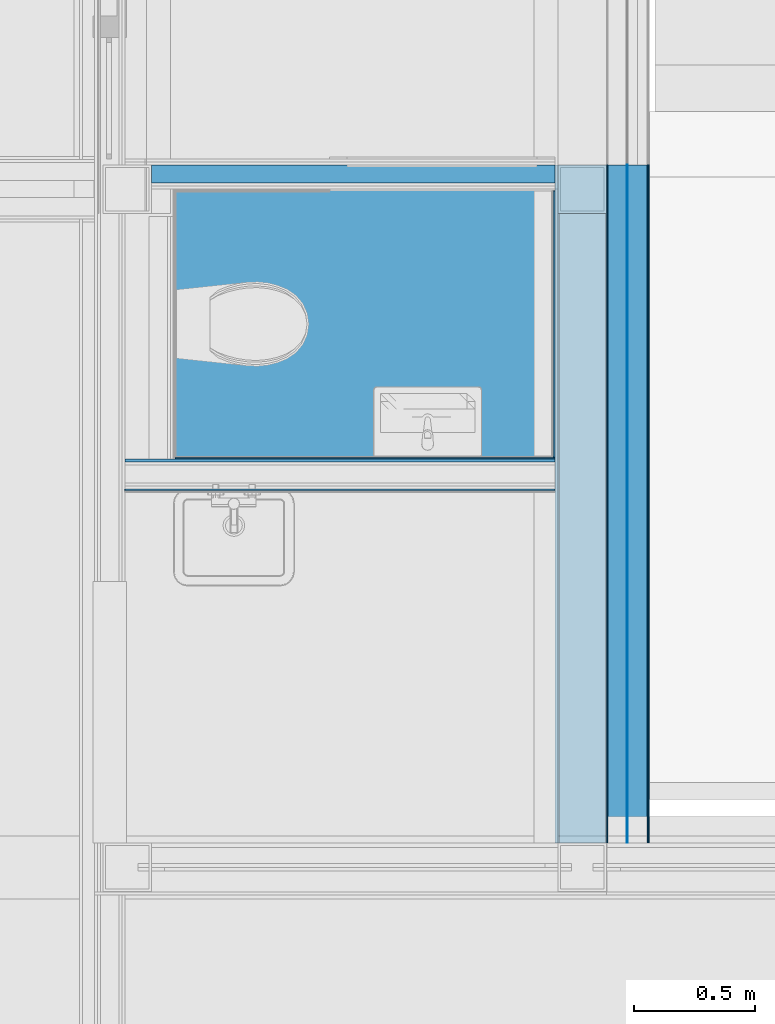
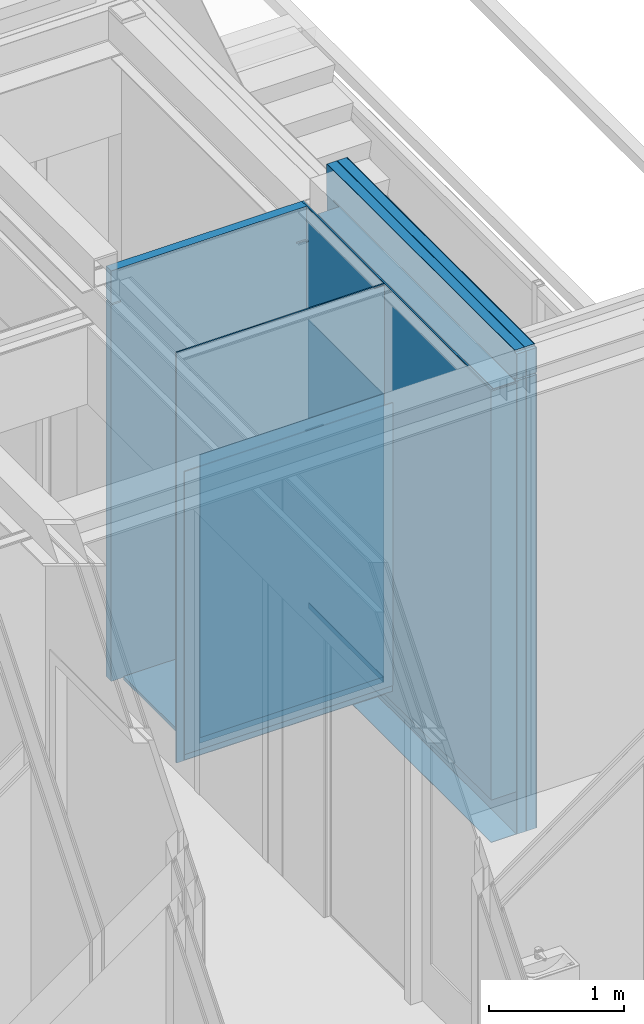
# One storey, part 92 of 165: 16 building element parts, 1 opening, 7 elements without a shape of their own.
"""IFC2X3 building model written with IfcOpenShell, lengths in millimetres."""

import ifcopenshell
import ifcopenshell.guid

model = None  # the IFC model being written
_history = None  # IfcOwnerHistory: only IFC2X3 demands one
_inside = {}  # id of a spatial element -> (the spatial element, [elements in it])
_under = {}  # id of a project, library or spatial element -> (it, [spatial elements below it])
_declared = {}  # id of a project -> (the project, [libraries it declares])
_typed = {}  # id of a type object -> (the type object, [elements of that type])
_made_of = {}  # id of a material, layer set ... -> (it, [elements and type objects made of it])


def new_model(schema):
    """Start an empty IFC model of exactly this schema.

    Asked for "IFC4X3", IfcOpenShell would pick the latest addendum, in which some entities
    have other attributes; the version numbers below select the first issue.
    IFC2X3 requires an IfcOwnerHistory on every rooted entity: one is made here for all.
    """
    global model, _history
    if schema == "IFC4X3":
        model = ifcopenshell.file(schema_version=(4, 3, 0, 0))
    else:
        model = ifcopenshell.file(schema=schema)
    _inside.clear()
    _under.clear()
    _declared.clear()
    _typed.clear()
    _made_of.clear()
    _history = None
    if model.schema == "IFC2X3":
        org = make("IfcOrganization", Name="unknown")
        user = make(
            "IfcPersonAndOrganization",
            ThePerson=make("IfcPerson", FamilyName="unknown"),
            TheOrganization=org,
        )
        app = make(
            "IfcApplication",
            ApplicationDeveloper=org,
            Version="unknown",
            ApplicationFullName="unknown",
            ApplicationIdentifier="unknown",
        )
        _history = make(
            "IfcOwnerHistory",
            OwningUser=user,
            OwningApplication=app,
            ChangeAction="ADDED",
            CreationDate=0,
        )
    return model


def make(cls, **values):
    """One entity of the class cls with the attributes given. An attribute that is None is left unset."""
    return model.create_entity(
        cls, **{name: value for name, value in values.items() if value is not None}
    )


def entity(cls, *values):
    """Any entity or typed value of the class cls, its attributes in the order of the schema. None: left unset."""
    e = model.create_entity(cls)
    for i, value in enumerate(values):
        if value is not None:
            e[i] = value
    return e


def rooted(cls, **values):
    """An entity with a GlobalId (a new one), such as an element, a storey or a relation."""
    return make(cls, GlobalId=ifcopenshell.guid.new(), OwnerHistory=_history, **values)


def si_unit(unit_type, name, prefix=None):
    """IfcSIUnit, for example si_unit("LENGTHUNIT", "METRE", prefix="MILLI")."""
    return make("IfcSIUnit", UnitType=unit_type, Prefix=prefix, Name=name)


def converted_unit(unit_type, name, factor, base, dimensions=None, offset=None):
    """IfcConversionBasedUnit, such as the inch: factor (a typed value) times the base unit."""
    return make(
        "IfcConversionBasedUnit"
        if offset is None
        else "IfcConversionBasedUnitWithOffset",
        ConversionOffset=offset,
        Dimensions=None
        if dimensions is None
        else entity("IfcDimensionalExponents", *dimensions),
        UnitType=unit_type,
        Name=name,
        ConversionFactor=make(
            "IfcMeasureWithUnit", ValueComponent=factor, UnitComponent=base
        ),
    )


def derived_unit(unit_type, elements):
    """IfcDerivedUnit: a product of units, each with its exponent."""
    return make(
        "IfcDerivedUnit",
        Elements=[
            make("IfcDerivedUnitElement", Unit=unit, Exponent=power)
            for unit, power in elements
        ],
        UnitType=unit_type,
    )


def money_unit(currency):
    """IfcMonetaryUnit."""
    return make("IfcMonetaryUnit", Currency=currency)


def assignment(units):
    """IfcUnitAssignment: the units of a project."""
    return None if units is None else make("IfcUnitAssignment", Units=units)


def point(xyz):
    """IfcCartesianPoint."""
    return None if xyz is None else make("IfcCartesianPoint", Coordinates=xyz)


def direction(xyz):
    """IfcDirection."""
    return None if xyz is None else make("IfcDirection", DirectionRatios=xyz)


def frame(location, z_axis=None, x_axis=None):
    """IfcAxis2Placement3D, a coordinate frame: its origin and axes. An axis left out is left unset."""
    return make(
        "IfcAxis2Placement3D",
        Location=point(location),
        Axis=direction(z_axis),
        RefDirection=direction(x_axis),
    )


def origin_with_axes():
    """The frame at (0, 0, 0) with the z axis (0, 0, 1) and the x axis (1, 0, 0) written out."""
    return frame((0.0, 0.0, 0.0), z_axis=(0.0, 0.0, 1.0), x_axis=(1.0, 0.0, 0.0))


def place(relative_to, where):
    """IfcLocalPlacement: puts the frame where relative to a parent placement (None: the world)."""
    return make(
        "IfcLocalPlacement", PlacementRelTo=relative_to, RelativePlacement=where
    )


def context(
    kind, dimensions, precision=None, world=None, true_north=None, identifier=None
):
    """IfcGeometricRepresentationContext, for example the 3D "Model" context."""
    return make(
        "IfcGeometricRepresentationContext",
        ContextIdentifier=identifier,
        ContextType=kind,
        CoordinateSpaceDimension=dimensions,
        Precision=precision,
        WorldCoordinateSystem=world,
        TrueNorth=true_north,
    )


def subcontext(parent, identifier, kind, view, scale=None):
    """IfcGeometricRepresentationSubContext, for example "Body" below "Model"."""
    return make(
        "IfcGeometricRepresentationSubContext",
        ContextIdentifier=identifier,
        ContextType=kind,
        ParentContext=parent,
        TargetScale=scale,
        TargetView=view,
    )


def project(units=None, contexts=None):
    """IfcProject with its units and contexts."""
    return rooted(
        "IfcProject",
        Name="project",
        RepresentationContexts=contexts,
        UnitsInContext=assignment(units),
    )


def spatial(cls, under=None, at=None, **own):
    """A site, building, storey or space (cls), placed at a placement, below another one or the project."""
    s = rooted(cls, ObjectPlacement=at, **own)
    if under is not None:
        _under.setdefault(under.id(), (under, []))[1].append(s)
    return s


def faces_of(points, faces, orient=None, outer=None):
    """IfcFace entities. A face is a list of loops; a loop is a list of indices into points, from 0.

    orient and outer hold one flag for each loop. By default every Orientation is true, the
    first loop of a face is its IfcFaceOuterBound and the others are IfcFaceBound.
    """
    made = []
    for i, loops in enumerate(faces):
        bounds = []
        for j, loop in enumerate(loops):
            is_outer = j == 0 if outer is None else outer[i][j]
            bounds.append(
                make(
                    "IfcFaceOuterBound" if is_outer else "IfcFaceBound",
                    Bound=make("IfcPolyLoop", Polygon=[points[k] for k in loop]),
                    Orientation=True if orient is None else orient[i][j],
                )
            )
        made.append(make("IfcFace", Bounds=bounds))
    return made


def faceted_brep(points, faces, orient=None, outer=None, voids=None):
    """IfcFacetedBrep: a solid bounded by flat faces; with voids (closed shells), ...WithVoids."""
    shared = [point(p) for p in points]
    hull = make("IfcClosedShell", CfsFaces=faces_of(shared, faces, orient, outer))
    if voids is None:
        return make("IfcFacetedBrep", Outer=hull)
    return make(
        "IfcFacetedBrepWithVoids",
        Outer=hull,
        Voids=[
            make(cls, CfsFaces=faces_of(shared, fs, o, b)) for cls, fs, o, b in voids
        ],
    )


def shape(context_of_items, identifier, shape_type, items):
    """IfcShapeRepresentation: the items that make up one representation, for example the "Body"."""
    return make(
        "IfcShapeRepresentation",
        ContextOfItems=context_of_items,
        RepresentationIdentifier=identifier,
        RepresentationType=shape_type,
        Items=items,
    )


def material(Name=None, Category=None):
    """IfcMaterial."""
    return make("IfcMaterial", Name=Name, Category=Category)


def made_of(thing, what):
    """Note that an element or type object is made of a material, layer set ...; save() writes the relation."""
    if what is not None:
        _made_of.setdefault(what.id(), (what, []))[1].append(thing)
    return thing


def type_object(cls, material=None, **own):
    """A type object (cls), such as IfcWallType, which elements share."""
    return made_of(rooted(cls, **own), material)


def element(
    cls,
    number,
    at=None,
    inside=None,
    cuts=None,
    type_object=None,
    material=None,
    context=None,
    identifier="Body",
    shape_type=None,
    held_by="IfcProductDefinitionShape",
    body=None,
    shapes=None,
    **own,
):
    """One element of the class cls, such as IfcWall. Its Tag is "e" and its number.

    at: its placement. inside: the storey or other place that contains it. cuts: it is an
    opening in that element (IfcRelVoidsElement). A single representation is given by context,
    identifier, shape_type and body (its items); several are given by shapes. held_by: the class
    of the entity that holds the representations. save() writes the other relations.
    """
    e = rooted(cls, Tag="e%d" % number, ObjectPlacement=at, **own)
    if body is not None:
        shapes = [shape(context, identifier, shape_type, body)]
    if shapes is not None:
        e.Representation = make(held_by, Representations=shapes)
    if inside is not None:
        _inside.setdefault(inside.id(), (inside, []))[1].append(e)
    if cuts is not None:
        rooted(
            "IfcRelVoidsElement", RelatingBuildingElement=cuts, RelatedOpeningElement=e
        )
    if type_object is not None:
        _typed.setdefault(type_object.id(), (type_object, []))[1].append(e)
    return made_of(e, material)


def aggregate(whole, parts):
    """IfcRelAggregates: a whole, such as a stair, and the parts it consists of."""
    return rooted("IfcRelAggregates", RelatingObject=whole, RelatedObjects=parts)


def save(model, path):
    """Write the relations noted so far, then the file.

    IfcRelAggregates (storeys below a building ...), IfcRelContainedInSpatialStructure (elements
    in a storey), IfcRelDefinesByType, IfcRelAssociatesMaterial and IfcRelDeclares: one each for
    every whole, place, type object, material and project.
    """
    for whole, parts in _under.values():
        aggregate(whole, parts)
    for where, things in _inside.values():
        rooted(
            "IfcRelContainedInSpatialStructure",
            RelatedElements=things,
            RelatingStructure=where,
        )
    for kind, things in _typed.values():
        rooted("IfcRelDefinesByType", RelatedObjects=things, RelatingType=kind)
    for what, things in _made_of.values():
        rooted("IfcRelAssociatesMaterial", RelatedObjects=things, RelatingMaterial=what)
    for by, libraries in _declared.values():
        rooted("IfcRelDeclares", RelatingContext=by, RelatedDefinitions=libraries)
    model.write(path)


model = new_model("IFC2X3")

# Units and contexts
model_context = context("Model", 3, precision=0.01, world=origin_with_axes(), true_north=direction((0.0, 1.0)))
body_context = subcontext(model_context, "Body", "Model", "MODEL_VIEW")
ifc_project = project(units=[si_unit("LENGTHUNIT", "METRE", prefix="MILLI"), si_unit("AREAUNIT", "SQUARE_METRE"), si_unit("VOLUMEUNIT", "CUBIC_METRE"), converted_unit("PLANEANGLEUNIT", "DEGREE", entity("IfcPlaneAngleMeasure", 0.0174532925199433), si_unit("PLANEANGLEUNIT", "RADIAN"), dimensions=[0, 0, 0, 0, 0, 0, 0]), money_unit("EUR"), converted_unit("TIMEUNIT", "Year", entity("IfcTimeMeasure", 31556926.0), si_unit("TIMEUNIT", "SECOND"), dimensions=[0, 0, 1, 0, 0, 0, 0]), si_unit("MASSUNIT", "GRAM", prefix="KILO"), si_unit("THERMODYNAMICTEMPERATUREUNIT", "DEGREE_CELSIUS"), si_unit("LUMINOUSINTENSITYUNIT", "LUMEN"), si_unit("ENERGYUNIT", "JOULE", prefix="MEGA"), derived_unit("THERMALCONDUCTANCEUNIT", [(si_unit("POWERUNIT", "WATT"), 1), (si_unit("LENGTHUNIT", "METRE"), -1), (si_unit("THERMODYNAMICTEMPERATUREUNIT", "KELVIN"), -1)]), derived_unit("SPECIFICHEATCAPACITYUNIT", [(si_unit("ENERGYUNIT", "JOULE"), 1), (si_unit("MASSUNIT", "GRAM", prefix="KILO"), -1), (si_unit("THERMODYNAMICTEMPERATUREUNIT", "KELVIN"), -1)]), derived_unit("MASSDENSITYUNIT", [(si_unit("MASSUNIT", "GRAM", prefix="KILO"), 1), (si_unit("VOLUMEUNIT", "CUBIC_METRE"), -1)])], contexts=[model_context])

# Site, building, storey
site_placement = place(None, origin_with_axes())
site = spatial("IfcSite", under=ifc_project, at=site_placement, Name="Site", CompositionType="ELEMENT")
building_placement = place(site_placement, origin_with_axes())
building = spatial("IfcBuilding", under=site, at=building_placement, Name="Naam gebouw", CompositionType="ELEMENT")
storey_placement = place(building_placement, origin_with_axes())
storey = spatial("IfcBuildingStorey", under=building, at=storey_placement, Name="Begane grond", CompositionType="ELEMENT", Elevation=0.0)

# Proxy, opening, building element part
building_element_proxy_type_1 = type_object("IfcBuildingElementProxyType", Name="22 Metal stud 125 gips 125", PredefinedType="NOTDEFINED")
proxy_1_placement = place(storey_placement, frame((26386.00000000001, 19450.00039292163, -100.0), z_axis=(0.0, 0.0, 1.0), x_axis=(1.0, 0.0, 0.0)))
proxy_1 = element("IfcBuildingElementProxy", 1, at=proxy_1_placement, inside=storey, type_object=building_element_proxy_type_1, Name="_Wand-x")
opening_placement = place(proxy_1_placement, frame((1434.999979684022, 0.0, 100.0), z_axis=(0.0, 0.0, 1.0), x_axis=(1.0, 0.0, 0.0)))
element("IfcOpeningElement", 2, at=opening_placement, cuts=proxy_1, Name="_01.05", context=body_context, shape_type="Brep", body=[
    faceted_brep([(-464.9999999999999, -1.000000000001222, 2600.0), (-464.9999999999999, -1.000000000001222, -100.0000000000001), (464.9999999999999, -1.000000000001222, -100.0000000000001), (464.9999999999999, -1.000000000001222, 2600.0), (-464.9999999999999, 126.0000000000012, 2600.0), (-464.9999999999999, 126.0000000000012, -100.0000000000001), (464.9999999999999, 126.0000000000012, -100.0000000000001), (464.9999999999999, 126.0000000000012, 2600.0)], [[[0, 1, 2, 3]], [[4, 5, 1, 0]], [[5, 6, 2, 1]], [[6, 7, 3, 2]], [[7, 4, 0, 3]], [[6, 5, 4, 7]]]),
])
ifc_material_1 = material(Name="ALG - LICHTE SCHEIDINGSWAND")
building_element_part_1_placement = place(proxy_1_placement, origin_with_axes())
building_element_part_1 = element("IfcBuildingElementPart", 3, at=building_element_part_1_placement, material=ifc_material_1, Name="ALG - LICHTE SCHEIDINGSWAND", context=body_context, shape_type="Brep", body=[
    faceted_brep([(1899.999979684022, 25.00000000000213, 2700.0), (1899.999979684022, 100.0000000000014, 2700.0), (1899.999984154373, 100.0000000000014, 3393.0), (1899.999984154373, 25.00000000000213, 3393.0), (969.9999796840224, 100.0000000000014, 2700.0), (969.9999796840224, 24.99999999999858, 2700.0), (969.9999796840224, 100.0000000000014, 0.0), (233.9999999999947, 100.0000000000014, 0.0), (233.9999999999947, 100.0000000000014, 3393.0), (313.0000044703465, 100.0000000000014, 3393.0), (313.0000044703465, 100.0000000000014, 3405.0), (233.9999999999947, 100.0000000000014, 3405.0), (233.9999999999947, 100.0000000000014, 3699.999999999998), (1899.999984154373, 100.0000000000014, 3700.0), (1899.999984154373, 100.0000000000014, 3405.0), (1814.99997855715, 100.0000000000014, 3405.0), (1814.99997855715, 100.0000000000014, 3393.0), (1814.99997855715, 24.99999999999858, 3393.0), (1814.99997855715, 24.99999999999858, 3405.0), (1899.999984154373, 25.00000000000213, 3405.0), (1899.999984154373, 25.00000000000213, 3700.0), (233.9999999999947, 24.99999999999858, 3699.999999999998), (233.9999999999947, 24.99999999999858, 3405.0), (313.0000044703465, 24.99999999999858, 3405.0), (313.0000044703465, 24.99999999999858, 3393.0), (233.9999999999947, 24.99999999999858, 3393.0), (233.9999999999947, 24.99999999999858, 0.0), (969.9999796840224, 24.99999999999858, 0.0)], [[[0, 1, 2, 3]], [[4, 1, 0, 5]], [[4, 6, 7, 8, 9, 10, 11, 12, 13, 14, 15, 16, 2, 1]], [[3, 2, 16, 17]], [[5, 0, 3, 17, 18, 19, 20, 21, 22, 23, 24, 25, 26, 27]], [[6, 4, 5, 27]], [[6, 27, 26, 7]], [[8, 7, 26, 25]], [[25, 24, 9, 8]], [[10, 9, 24, 23]], [[11, 10, 23, 22]], [[12, 11, 22, 21]], [[21, 20, 13, 12]], [[19, 14, 13, 20]], [[15, 14, 19, 18]], [[16, 15, 18, 17]]]),
])
aggregate(proxy_1, [building_element_part_1])

# Proxy, building element part
proxy_2_placement = place(storey_placement, frame((26385.99999867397, 18211.00041306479, -100.0), z_axis=(0.0, 0.0, 1.0), x_axis=(1.0, -1.489980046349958e-08, 0.0)))
proxy_2 = element("IfcBuildingElementProxy", 4, at=proxy_2_placement, inside=storey, type_object=building_element_proxy_type_1, Name="_Wand-x")
ifc_material_2 = material(Name="Gipsplaat")
building_element_part_2_placement = place(proxy_2_placement, origin_with_axes())
building_element_part_2 = element("IfcBuildingElementPart", 5, at=building_element_part_2_placement, material=ifc_material_2, Name="Gipsplaat", context=body_context, shape_type="Brep", body=[
    faceted_brep([(1899.999983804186, 112.500028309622, 3694.999999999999), (1899.999983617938, 125.0000283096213, 3694.999999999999), (1899.999983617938, 125.0000283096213, 3700.0), (1899.999983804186, 112.500028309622, 3700.0), (1814.999999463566, 125.0000270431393, 3694.999999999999), (1814.999999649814, 112.50002704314, 3694.999999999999), (1814.999999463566, 125.0000270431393, 3682.999999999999), (1899.999983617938, 125.0000283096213, 3682.999999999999), (1899.999983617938, 125.0000283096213, 0.0), (124.9999994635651, 125.0000018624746, 0.0), (124.9999994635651, 125.0000018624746, 3700.0), (124.9999996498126, 112.5000018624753, 3700.0), (124.9999996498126, 112.5000018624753, 0.0), (1899.999983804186, 112.500028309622, 0.0), (1899.999983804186, 112.500028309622, 3682.999999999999), (1814.999999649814, 112.50002704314, 3682.999999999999)], [[[0, 1, 2, 3]], [[4, 1, 0, 5]], [[6, 7, 8, 9, 10, 2, 1, 4]], [[3, 2, 10, 11]], [[5, 0, 3, 11, 12, 13, 14, 15]], [[6, 4, 5, 15]], [[14, 7, 6, 15]], [[7, 14, 13, 8]], [[8, 13, 12, 9]], [[10, 9, 12, 11]]]),
])
aggregate(proxy_2, [building_element_part_2])

# Wall, building element parts
wall_type = type_object("IfcWallType", Name="21 STO Buitengevelisolatie 160 390", PredefinedType="NOTDEFINED")
wall_placement = place(storey_placement, frame((28499.99998415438, 19550.00039292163, -485.0), z_axis=(0.0, 0.0, 1.0), x_axis=(0.0, -1.0, 0.0)))
wall = element("IfcWall", 6, at=wall_placement, inside=storey, type_object=wall_type, Name="21_Wand-x")
ifc_material_3 = material(Name="STO pleisterlaag")
building_element_part_3_placement = place(wall_placement, origin_with_axes())
building_element_part_3 = element("IfcBuildingElementPart", 7, at=building_element_part_3_placement, material=ifc_material_3, Name="STO pleisterlaag", context=body_context, shape_type="Brep", body=[
    faceted_brep([(0.0, 172.9999999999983, 1433.509656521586), (0.0, 176.000089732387, 1433.509656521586), (0.0, 175.9999999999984, 655.0496282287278), (0.0, 175.0049652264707, 655.0496282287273), (0.0, 175.0049652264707, 565.0000000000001), (0.0, 172.9999999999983, 565.0000000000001), (897.6900346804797, 176.000089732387, 835.0496282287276), (1302.76447352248, 172.9999999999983, 565.0000000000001), (1302.76447352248, 175.0049652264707, 565.0000000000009), (897.6900346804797, 175.0049652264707, 835.0496282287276), (50.00261124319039, 175.9999999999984, 835.0496282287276), (50.00261124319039, 175.9999999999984, 655.0496282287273), (50.00261124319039, 175.0049652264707, 655.0496282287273), (50.00261124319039, 175.0049652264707, 835.0496282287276)], [[[0, 1, 2, 3, 4, 5]], [[6, 1, 0, 7, 8, 9]], [[1, 6, 10, 11, 2]], [[3, 2, 11, 12]], [[9, 8, 4, 3, 12, 13]], [[8, 7, 5, 4]], [[7, 0, 5]], [[6, 9, 13, 10]], [[12, 11, 10, 13]]]),
    faceted_brep([(2550.002611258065, 176.000089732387, 1845.0), (1780.039733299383, 176.000089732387, 1845.0), (0.0, 176.000089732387, 3031.69315553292), (0.0, 176.0000000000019, 4345.0), (2770.002611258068, 175.9999999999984, 4345.0), (2770.002611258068, 175.9999999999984, 4327.5), (2799.002611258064, 175.9999999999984, 4327.5), (2799.002611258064, 175.9999999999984, 4102.5), (2770.002611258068, 175.9999999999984, 4102.5), (2770.002611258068, 175.9999999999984, 4085.0), (2799.002611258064, 175.9999999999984, 4085.0), (2799.002611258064, 175.9999999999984, 0.0), (2620.002611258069, 176.000089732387, 0.0), (2620.002611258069, 176.000089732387, 565.0000000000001), (2550.002611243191, 176.000089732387, 565.0000000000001), (2550.002611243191, 175.9999999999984, 655.0496282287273), (2550.002611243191, 176.000089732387, 835.0496282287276), (2550.002611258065, 172.9999999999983, 1845.0), (1780.039733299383, 172.9999999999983, 1845.0), (0.0, 173.0000000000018, 3031.693155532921), (0.0, 173.0000000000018, 4345.0), (2770.002611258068, 172.9999999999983, 4345.0), (2770.002611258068, 172.9999999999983, 4327.5), (2799.002611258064, 172.9999999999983, 4327.5), (2799.002611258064, 172.9999999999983, 4102.5), (2770.002611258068, 172.9999999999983, 4102.5), (2770.002611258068, 172.9999999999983, 4085.0), (2799.002611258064, 172.9999999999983, 4085.0), (2799.002611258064, 172.9999999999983, 0.0), (2620.002611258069, 172.9999999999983, 0.0), (2620.002611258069, 172.9999999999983, 565.0000000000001), (2550.002611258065, 172.9999999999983, 565.0000000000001), (2550.002611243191, 175.0049652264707, 565.0000000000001), (2550.002611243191, 175.0049652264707, 655.0496282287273), (2550.002611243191, 175.0049652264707, 835.0496282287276)], [[[0, 1, 2, 3, 4, 5, 6, 7, 8, 9, 10, 11, 12, 13, 14, 15, 16]], [[1, 0, 17, 18]], [[19, 2, 1, 18]], [[2, 19, 20, 3]], [[4, 3, 20, 21]], [[4, 21, 22, 5]], [[5, 22, 23, 6]], [[23, 24, 7, 6]], [[7, 24, 25, 8]], [[8, 25, 26, 9]], [[9, 26, 27, 10]], [[27, 28, 11, 10]], [[11, 28, 29, 12]], [[29, 30, 13, 12]], [[31, 32, 14, 13, 30]], [[32, 33, 15, 14]], [[34, 16, 15, 33]], [[0, 16, 34, 33, 32, 31, 17]], [[17, 31, 30, 29, 28, 27, 26, 25, 24, 23, 22, 21, 20, 19, 18]]]),
])
ifc_material_4 = material(Name="STO weefsellaag")
building_element_part_4_placement = place(wall_placement, origin_with_axes())
building_element_part_4 = element("IfcBuildingElementPart", 8, at=building_element_part_4_placement, material=ifc_material_4, Name="STO weefsellaag", context=body_context, shape_type="Brep", body=[
    faceted_brep([(0.0, 168.0000897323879, 1433.509656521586), (0.0, 172.9999999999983, 1433.509656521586), (0.0, 172.9999999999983, 565.0000000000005), (0.0, 167.9999999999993, 565.0000000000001), (1302.76447352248, 172.9999999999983, 565.0000000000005), (1302.76447352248, 168.0000897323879, 565.0000000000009)], [[[0, 1, 2, 3]], [[4, 1, 0, 5]], [[1, 4, 2]], [[4, 5, 3, 2]], [[5, 0, 3]]]),
    faceted_brep([(2550.002611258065, 172.9999999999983, 1845.0), (1780.039733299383, 172.9999999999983, 1845.0), (0.0, 173.0000000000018, 3031.693155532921), (0.0, 173.0000000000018, 4345.0), (2770.002611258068, 172.9999999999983, 4345.0), (2770.002611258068, 173.0000000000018, 4327.5), (2799.002611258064, 172.9999999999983, 4327.5), (2799.002611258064, 172.9999999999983, 4102.5), (2770.002611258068, 173.0000000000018, 4102.5), (2770.002611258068, 173.0000000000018, 4085.0), (2799.002611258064, 172.9999999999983, 4085.0), (2799.002611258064, 172.9999999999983, 0.0), (2620.002611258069, 172.9999999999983, 0.0), (2620.002611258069, 173.0000000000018, 565.0000000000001), (2550.002611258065, 173.0000000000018, 565.0000000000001), (2550.002611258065, 168.0000897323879, 1845.0), (1780.039733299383, 168.0000897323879, 1845.0), (0.0, 168.0000897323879, 3031.69315553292), (0.0, 167.9999999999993, 4345.0), (2770.002611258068, 167.9999999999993, 4345.0), (2770.002611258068, 167.9999999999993, 4327.5), (2799.002611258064, 167.9999999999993, 4327.5), (2799.002611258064, 167.9999999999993, 4102.5), (2770.002611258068, 167.9999999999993, 4102.5), (2770.002611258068, 167.9999999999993, 4085.0), (2799.002611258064, 167.9999999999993, 4085.0), (2799.002611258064, 167.9999999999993, 0.0), (2620.002611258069, 167.9999999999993, 0.0), (2620.002611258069, 167.9999999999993, 565.0000000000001), (2550.002611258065, 168.0000897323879, 565.0000000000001)], [[[0, 1, 2, 3, 4, 5, 6, 7, 8, 9, 10, 11, 12, 13, 14]], [[1, 0, 15, 16]], [[17, 2, 1, 16]], [[2, 17, 18, 3]], [[4, 3, 18, 19]], [[4, 19, 20, 5]], [[5, 20, 21, 6]], [[21, 22, 7, 6]], [[7, 22, 23, 8]], [[8, 23, 24, 9]], [[9, 24, 25, 10]], [[25, 26, 11, 10]], [[11, 26, 27, 12]], [[27, 28, 13, 12]], [[29, 14, 13, 28]], [[0, 14, 29, 15]], [[15, 29, 28, 27, 26, 25, 24, 23, 22, 21, 20, 19, 18, 17, 16]]]),
])
ifc_material_5 = material(Name="Isolatie - STO EPS")
building_element_part_5_placement = place(wall_placement, origin_with_axes())
building_element_part_5 = element("IfcBuildingElementPart", 9, at=building_element_part_5_placement, material=ifc_material_5, Name="Isolatie - STO EPS", context=body_context, shape_type="Brep", body=[
    faceted_brep([(2799.002611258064, 167.9999999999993, 4085.0), (2799.002611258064, 167.9999999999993, 0.0), (2620.002611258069, 167.9999999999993, 0.0), (2620.002611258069, 167.9999999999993, 565.0000000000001), (0.0, 167.9999999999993, 565.0000000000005), (0.0, 167.9999999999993, 4345.0), (2770.002611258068, 167.9999999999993, 4345.0), (2770.002611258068, 167.9999999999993, 4327.5), (2799.002611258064, 167.9999999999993, 4327.5), (2799.002611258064, 167.9999999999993, 4102.5), (2770.002611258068, 167.9999999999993, 4102.5), (2770.002611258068, 167.9999999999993, 4085.0), (2799.002611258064, 88.00000000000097, 4085.0), (2799.002611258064, 88.00000000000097, 0.0), (0.0, 88.00000000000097, 0.0), (0.0, 128.0000897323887, 0.0), (2620.002611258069, 128.0000897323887, 0.0), (2620.002611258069, 128.0000897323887, 565.0000000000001), (0.0, 128.0000897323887, 565.0000000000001), (0.0, 88.00000000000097, 4345.0), (2770.002611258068, 88.00000000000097, 4345.0), (2770.002611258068, 88.00000000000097, 4327.5), (2799.002611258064, 88.00000000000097, 4327.5), (2799.002611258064, 88.00000000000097, 4102.5), (2770.002611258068, 88.00000000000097, 4102.5), (2770.002611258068, 88.00000000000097, 4085.0)], [[[0, 1, 2, 3, 4, 5, 6, 7, 8, 9, 10, 11]], [[12, 13, 1, 0]], [[14, 15, 16, 2, 1, 13]], [[16, 17, 3, 2]], [[3, 17, 18, 4]], [[5, 4, 18, 15, 14, 19]], [[6, 5, 19, 20]], [[6, 20, 21, 7]], [[7, 21, 22, 8]], [[22, 23, 9, 8]], [[9, 23, 24, 10]], [[10, 24, 25, 11]], [[11, 25, 12, 0]], [[24, 23, 22, 21, 20, 19, 14, 13, 12, 25]], [[17, 16, 15, 18]]]),
])
ifc_material_6 = material(Name="STO lijmlaag")
building_element_part_6_placement = place(wall_placement, origin_with_axes())
building_element_part_6 = element("IfcBuildingElementPart", 10, at=building_element_part_6_placement, material=ifc_material_6, Name="STO lijmlaag", context=body_context, shape_type="Brep", body=[
    faceted_brep([(2770.002611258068, 88.00000000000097, 4345.0), (2770.002611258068, 88.00000000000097, 4327.5), (2799.002611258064, 88.00000000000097, 4327.5), (2799.002611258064, 88.00000000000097, 4102.5), (2770.002611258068, 88.00000000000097, 4102.5), (2770.002611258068, 88.00000000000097, 4085.0), (2799.002611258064, 88.00000000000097, 4085.0), (2799.002611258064, 88.00000000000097, 0.0), (0.0, 88.00000000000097, 0.0), (0.0, 88.00000000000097, 4345.0), (2770.002611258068, 83.99999999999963, 4327.5), (2770.002611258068, 83.99999999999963, 4345.0), (2799.002611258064, 83.99999999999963, 4327.5), (2799.002611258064, 83.99999999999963, 4102.5), (2770.002611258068, 83.99999999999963, 4102.5), (2770.002611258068, 83.99999999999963, 4085.0), (2799.002611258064, 83.99999999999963, 4085.0), (2799.002611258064, 83.99999999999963, 0.0), (0.0, 83.99999999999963, 0.0), (0.0, 83.99999999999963, 4345.0)], [[[0, 1, 2, 3, 4, 5, 6, 7, 8, 9]], [[10, 1, 0, 11]], [[12, 2, 1, 10]], [[3, 2, 12, 13]], [[14, 4, 3, 13]], [[15, 5, 4, 14]], [[16, 6, 5, 15]], [[7, 6, 16, 17]], [[17, 18, 8, 7]], [[9, 8, 18, 19]], [[19, 11, 0, 9]], [[12, 10, 11, 19, 18, 17, 16, 15, 14, 13]]]),
])
building_element_part_7_placement = place(wall_placement, origin_with_axes())
building_element_part_7 = element("IfcBuildingElementPart", 11, at=building_element_part_7_placement, material=ifc_material_5, Name="Isolatie - STO EPS", context=body_context, shape_type="Brep", body=[
    faceted_brep([(0.0, 4.000000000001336, 0.0), (0.0, 4.000000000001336, 3778.0), (0.0, 15.99999887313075, 3778.0), (0.0, 15.99999887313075, 3790.0), (0.0, 4.000000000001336, 3790.0), (0.0, 4.000000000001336, 4345.0), (0.0, 83.99999999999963, 4345.0), (0.0, 83.99999999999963, 0.0), (100.0000000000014, 4.000000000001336, 3790.0), (100.0000000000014, 4.000000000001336, 3778.0), (2799.002611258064, 4.000000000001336, 0.0), (2799.002611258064, 4.000000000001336, 4067.999999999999), (100.0000000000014, 4.000000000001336, 4067.999999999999), (100.0000000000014, 4.000000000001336, 4079.999999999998), (2799.002611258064, 4.000000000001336, 4079.999999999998), (2799.002611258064, 4.000000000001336, 4085.0), (2770.002611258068, 4.000000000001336, 4085.0), (2770.002611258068, 4.000000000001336, 4102.5), (2799.002611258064, 4.000000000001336, 4102.5), (2799.002611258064, 4.000000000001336, 4327.5), (2770.002611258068, 4.000000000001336, 4327.5), (2770.002611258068, 4.000000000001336, 4345.0), (100.0000000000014, 15.99999887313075, 3778.0), (100.0000000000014, 15.99999887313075, 3790.0), (2770.002611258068, 83.99999999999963, 4345.0), (2770.002611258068, 83.99999999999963, 4327.5), (2799.002611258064, 83.99999999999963, 4327.5), (2799.002611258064, 83.99999999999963, 4102.5), (2770.002611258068, 83.99999999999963, 4102.5), (2770.002611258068, 83.99999999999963, 4085.0), (2799.002611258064, 83.99999999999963, 4085.0), (2799.002611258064, 83.99999999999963, 0.0), (2799.002611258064, 16.0000203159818, 4079.999999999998), (2799.002611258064, 16.0000203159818, 4067.999999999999), (100.0000000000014, 16.0000203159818, 4067.999999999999), (100.0000000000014, 16.0000203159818, 4079.999999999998)], [[[0, 1, 2, 3, 4, 5, 6, 7]], [[8, 9, 1, 0, 10, 11, 12, 13, 14, 15, 16, 17, 18, 19, 20, 21, 5, 4]], [[22, 2, 1, 9]], [[23, 3, 2, 22]], [[8, 4, 3, 23]], [[5, 21, 24, 6]], [[24, 25, 26, 27, 28, 29, 30, 31, 7, 6]], [[10, 0, 7, 31]], [[22, 9, 8, 23]], [[32, 33, 11, 10, 31, 30, 15, 14]], [[12, 11, 33, 34]], [[35, 13, 12, 34]], [[35, 32, 14, 13]], [[15, 30, 29, 16]], [[16, 29, 28, 17]], [[17, 28, 27, 18]], [[27, 26, 19, 18]], [[19, 26, 25, 20]], [[20, 25, 24, 21]], [[34, 33, 32, 35]]]),
])
building_element_part_8_placement = place(wall_placement, origin_with_axes())
building_element_part_8 = element("IfcBuildingElementPart", 12, at=building_element_part_8_placement, material=ifc_material_6, Name="STO lijmlaag", context=body_context, shape_type="Brep", body=[
    faceted_brep([(0.0, 4.000000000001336, 0.0), (0.0, 4.000000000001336, 3778.0), (100.0000000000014, 4.000000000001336, 3778.0), (100.0000000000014, 4.000000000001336, 3790.0), (0.0, 4.000000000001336, 3790.0), (0.0, 4.000000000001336, 4345.0), (2770.002611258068, 4.000000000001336, 4345.0), (2770.002611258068, 4.000000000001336, 4327.5), (2799.002611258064, 4.000000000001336, 4327.5), (2799.002611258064, 4.000000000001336, 4102.5), (2770.002611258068, 4.000000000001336, 4102.5), (2770.002611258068, 4.000000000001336, 4085.0), (2799.002611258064, 4.000000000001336, 4085.0), (2799.002611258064, 4.000000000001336, 4079.999999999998), (100.0000000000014, 4.000000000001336, 4079.999999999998), (100.0000000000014, 4.000000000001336, 4067.999999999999), (2799.002611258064, 4.000000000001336, 4067.999999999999), (2799.002611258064, 4.000000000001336, 0.0), (0.0, 0.0, 0.0), (0.0, 0.0, 3778.0), (100.0000000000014, 0.0, 3778.0), (100.0000000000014, 0.9999988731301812, 4055.0), (100.0000000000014, 0.9999988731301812, 3790.0), (100.0000000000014, 0.0, 4055.0), (0.0, 0.9999988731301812, 3790.0), (0.0, 0.9999988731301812, 4055.0), (0.0, 0.0, 4055.0), (0.0, 0.0, 4345.0), (100.0000000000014, 0.0, 4344.999999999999), (100.0000000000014, 1.000020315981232, 4344.999999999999), (2770.002611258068, 1.000020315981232, 4345.0), (2770.002611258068, 1.000020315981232, 4327.5), (2799.002611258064, 1.000020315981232, 4327.5), (2799.002611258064, 1.000020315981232, 4102.5), (2770.002611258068, 1.000020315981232, 4102.5), (2770.002611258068, 1.000020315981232, 4085.0), (2799.002611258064, 1.000020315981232, 4085.0), (2799.002611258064, 1.000020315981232, 4079.999999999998), (100.0000000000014, 1.000020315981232, 4079.999999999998), (100.0000000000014, 0.0, 4067.999999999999), (2799.002611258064, 0.0, 4067.999999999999), (2799.002611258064, 0.0, 0.0)], [[[0, 1, 2, 3, 4, 5, 6, 7, 8, 9, 10, 11, 12, 13, 14, 15, 16, 17]], [[0, 18, 19, 1]], [[19, 20, 2, 1]], [[21, 22, 3, 2, 20, 23]], [[3, 22, 24, 4]], [[4, 24, 25, 26, 27, 5]], [[27, 28, 29, 30, 6, 5]], [[7, 6, 30, 31]], [[8, 7, 31, 32]], [[9, 8, 32, 33]], [[10, 9, 33, 34]], [[11, 10, 34, 35]], [[12, 11, 35, 36]], [[12, 36, 37, 13]], [[37, 38, 14, 13]], [[28, 39, 15, 14, 38, 29]], [[39, 40, 16, 15]], [[41, 17, 16, 40]], [[17, 41, 18, 0]], [[26, 23, 20, 19, 18, 41, 40, 39, 28, 27]], [[22, 21, 25, 24]], [[21, 23, 26, 25]], [[32, 31, 30, 29, 38, 37, 36, 35, 34, 33]]]),
])
ifc_material_7 = material(Name="Steen - Kalkzandsteen C")
building_element_part_9_placement = place(wall_placement, origin_with_axes())
building_element_part_9 = element("IfcBuildingElementPart", 13, at=building_element_part_9_placement, material=ifc_material_7, Name="Steen - Kalkzandsteen C", context=body_context, shape_type="Brep", body=[
    faceted_brep([(0.0, -200.0000000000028, 5.000000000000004), (200.0000000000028, -200.0000000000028, 5.000000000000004), (200.0000000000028, 0.0, 5.000000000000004), (0.0, 0.0, 5.000000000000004), (2799.002611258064, 0.0, 5.000000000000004), (0.0, -213.9999999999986, 5.000000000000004), (2799.002611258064, -213.9999999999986, 5.000000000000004), (2799.002611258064, 0.0, 0.0), (0.0, 0.0, 0.0), (0.0, -213.9999999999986, 0.0), (2799.002611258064, -213.9999999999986, 0.0)], [[[0, 1, 2, 3]], [[4, 2, 1, 0, 5, 6]], [[2, 4, 7, 8, 3]], [[5, 0, 3, 8, 9]], [[6, 5, 9, 10]], [[4, 6, 10, 7]], [[7, 10, 9, 8]]]),
    faceted_brep([(2799.002611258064, 0.0, 384.9999999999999), (200.0000000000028, 0.0, 384.9999999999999), (200.0000000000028, 0.0, 4067.999999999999), (2799.002611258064, 3.965108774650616e-05, 4067.999999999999), (200.0000000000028, -200.0000000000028, 384.9999999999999), (2799.002611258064, -213.9999999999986, 384.9999999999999), (0.0, -213.9999999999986, 384.9999999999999), (0.0, -200.0000000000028, 384.9999999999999), (200.0000000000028, -200.0000000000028, 4067.999999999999), (100.0000000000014, -200.0000000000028, 4067.999999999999), (100.0000000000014, -213.9999999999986, 4067.999999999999), (2799.002611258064, -213.9999999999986, 4067.999999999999), (100.0000000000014, -213.9999999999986, 4079.999999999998), (2799.002611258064, -213.9999999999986, 4079.999999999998), (2799.002611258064, -213.9999999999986, 4085.0), (0.0, -213.9999999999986, 4085.0), (0.0, -213.9999999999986, 3790.0), (100.0000000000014, -213.9999999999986, 3790.0), (100.0000000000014, -213.9999999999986, 3778.0), (0.0, -213.9999999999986, 3778.0), (0.0, -200.0000000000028, 3778.0), (100.0000000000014, -200.0000000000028, 3778.0), (100.0000000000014, -200.0000000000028, 4055.0), (0.0, -200.0000000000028, 4055.0), (0.0, -200.0000000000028, 4084.999999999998), (100.0000000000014, -200.0000000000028, 4084.999999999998), (100.0000000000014, -200.9999796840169, 4085.0), (100.0000000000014, -200.9999796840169, 4079.999999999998), (2799.002611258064, -200.9999796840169, 4079.999999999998), (2799.002611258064, -200.9999796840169, 4085.0), (0.0, -201.000001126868, 4055.0), (0.0, -201.000001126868, 3790.0), (100.0000000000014, -201.000001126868, 3790.0), (100.0000000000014, -201.000001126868, 4055.0)], [[[0, 1, 2, 3]], [[4, 1, 0, 5, 6, 7]], [[1, 4, 8, 2]], [[2, 8, 9, 10, 11, 3]], [[5, 0, 3, 11]], [[6, 5, 11, 10, 12, 13, 14, 15, 16, 17, 18, 19]], [[7, 6, 19, 20]], [[4, 7, 20, 21, 22, 23, 24, 25, 9, 8]], [[10, 9, 25, 26, 27, 12]], [[12, 27, 28, 13]], [[14, 13, 28, 29]], [[26, 25, 24, 15, 14, 29]], [[15, 24, 23, 30, 31, 16]], [[32, 17, 16, 31]], [[33, 22, 21, 18, 17, 32]], [[18, 21, 20, 19]], [[30, 23, 22, 33]], [[28, 27, 26, 29]], [[33, 32, 31, 30]]]),
    faceted_brep([(200.0000000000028, -4.999979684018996, 4079.999999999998), (200.0000000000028, -4.999979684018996, 4084.999999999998), (2799.002611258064, -4.999979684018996, 4085.0), (2799.002611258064, -4.999979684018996, 4079.999999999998), (200.0000000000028, -194.9999796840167, 4084.999999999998), (200.0000000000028, -194.9999796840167, 4079.999999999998), (2799.002611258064, -194.9999796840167, 4085.0), (2799.002611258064, -194.9999796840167, 4079.999999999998)], [[[0, 1, 2, 3]], [[4, 1, 0, 5]], [[1, 4, 6, 2]], [[7, 3, 2, 6]], [[5, 0, 3, 7]], [[4, 5, 7, 6]]]),
])
aggregate(wall, [building_element_part_3, building_element_part_4, building_element_part_5, building_element_part_6, building_element_part_7, building_element_part_8, building_element_part_9])

# Slab, building element part
slab_type = type_object("IfcSlabType", Name="43 Zwevende dekvloer 100", PredefinedType="NOTDEFINED")
slab_placement = place(storey_placement, frame((27355.99997968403, 19450.00039292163, 0.0), z_axis=(0.0, 0.0, 1.0), x_axis=(1.0, 0.0, 0.0)))
slab = element("IfcSlab", 14, at=slab_placement, inside=storey, type_object=slab_type, Name="_Vloer-x", PredefinedType="NOTDEFINED")
ifc_material_8 = material(Name="Isolatie - XPS zwevende dekvloer")
building_element_part_10_placement = place(slab_placement, origin_with_axes())
building_element_part_10 = element("IfcBuildingElementPart", 15, at=building_element_part_10_placement, material=ifc_material_8, Name="Isolatie - XPS zwevende dekvloer", context=body_context, shape_type="Brep", body=[
    faceted_brep([(0.0, 0.0, -100.0), (-644.9998693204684, 0.0, -100.0), (-644.9998693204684, 0.0, -70.0), (0.0, 0.0, -70.0), (0.0, 132.0000000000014, -100.0), (930.0000202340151, 132.0000000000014, -100.0), (930.0000202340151, -1113.999973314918, -100.0), (-644.9998693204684, -1113.999973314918, -100.0), (-644.9998693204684, -1113.999973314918, -70.0), (930.0000202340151, -1113.999973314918, -70.0), (930.0000202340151, 132.0000000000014, -70.0), (0.0, 132.0000000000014, -70.0)], [[[0, 1, 2, 3]], [[0, 4, 5, 6, 7, 1]], [[1, 7, 8, 2]], [[3, 2, 8, 9, 10, 11]], [[4, 0, 3, 11]], [[5, 4, 11, 10]], [[6, 5, 10, 9]], [[7, 6, 9, 8]]]),
])
aggregate(slab, [building_element_part_10])

# Proxy, building element parts
building_element_proxy_type_2 = type_object("IfcBuildingElementProxyType", Name="42 Tegelwerk 2600+ 12 x 2600", PredefinedType="NOTDEFINED")
proxy_3_placement = place(storey_placement, frame((26731.0000459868, 18356.00040792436, 0.0), z_axis=(0.0, 0.0, 1.0), x_axis=(1.0, -1.489979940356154e-08, 0.0)))
proxy_3 = element("IfcBuildingElementProxy", 16, at=proxy_3_placement, inside=storey, type_object=building_element_proxy_type_2, Name="_Wand-x")
ifc_material_9 = material(Name="21 STO lijmlaag")
building_element_part_11_placement = place(proxy_3_placement, origin_with_axes())
building_element_part_11 = element("IfcBuildingElementPart", 17, at=building_element_part_11_placement, material=ifc_material_9, Name="21 STO lijmlaag", context=body_context, shape_type="Brep", body=[
    faceted_brep([(-13.00005467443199, -13.00000466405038, 50.00000000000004), (-13.00005467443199, -13.00000466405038, 2600.0), (1554.999945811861, -12.99998130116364, 2600.0), (1554.999945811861, -12.99998130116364, 50.00000596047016), (-13.00005457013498, -19.99999572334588, 2600.0), (-13.00005464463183, -14.99999870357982, 50.00000000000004), (-13.00005457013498, -19.99999572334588, 50.00000000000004), (1554.999945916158, -19.99997236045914, 2600.0), (1554.999945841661, -14.99997534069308, 50.00000596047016), (1554.999945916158, -19.99997236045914, 50.00000596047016)], [[[0, 1, 2, 3]], [[4, 1, 0, 5, 6]], [[1, 4, 7, 2]], [[8, 3, 2, 7, 9]], [[5, 0, 3, 8]], [[6, 5, 8, 9]], [[4, 6, 9, 7]]]),
])
ifc_material_10 = material(Name="48 vloeivloer Bolidt")
building_element_part_12_placement = place(proxy_3_placement, origin_with_axes())
building_element_part_12 = element("IfcBuildingElementPart", 18, at=building_element_part_12_placement, material=ifc_material_10, Name="48 vloeivloer Bolidt", context=body_context, shape_type="Brep", body=[
    faceted_brep([(-15.00004868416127, -14.99999873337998, 0.0), (-15.00004868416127, -14.99999873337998, 50.00000596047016), (1554.999945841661, -14.99997534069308, 50.00000596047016), (1554.999945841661, -14.99997534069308, 0.0), (-15.00004860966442, -19.99998383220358, 50.00000596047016), (-15.00004860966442, -19.99998383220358, 0.0), (1554.999945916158, -19.99996043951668, 50.00000596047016), (1554.999945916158, -19.99996043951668, 0.0)], [[[0, 1, 2, 3]], [[4, 1, 0, 5]], [[1, 4, 6, 2]], [[7, 3, 2, 6]], [[5, 0, 3, 7]], [[4, 5, 7, 6]]]),
])
aggregate(proxy_3, [building_element_part_11, building_element_part_12])

proxy_4_placement = place(storey_placement, frame((28265.99998415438, 18356.00038505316, 0.0), z_axis=(0.0, 0.0, 1.0), x_axis=(0.0, 1.0, 0.0)))
proxy_4 = element("IfcBuildingElementProxy", 19, at=proxy_4_placement, inside=storey, type_object=building_element_proxy_type_2, Name="_Wand-x")
building_element_part_13_placement = place(proxy_4_placement, origin_with_axes())
building_element_part_13 = element("IfcBuildingElementPart", 20, at=building_element_part_13_placement, material=ifc_material_10, Name="48 vloeivloer Bolidt", context=body_context, shape_type="Brep", body=[
    faceted_brep([(-14.99997563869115, -14.99999850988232, 50.00000596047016), (-14.99997563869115, -19.99998360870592, 50.00000596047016), (1087.000007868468, -19.99998360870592, 50.00000596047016), (1087.000007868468, -14.99999850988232, 50.00000596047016), (-14.99997563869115, -19.99998360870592, 0.0), (-14.99997563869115, -14.99999850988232, 0.0), (1087.000007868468, -19.99998360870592, 0.0), (1087.000007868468, -14.99999850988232, 0.0)], [[[0, 1, 2, 3]], [[4, 1, 0, 5]], [[1, 4, 6, 2]], [[2, 6, 7, 3]], [[5, 0, 3, 7]], [[4, 5, 7, 6]]]),
])
building_element_part_14_placement = place(proxy_4_placement, origin_with_axes())
building_element_part_14 = element("IfcBuildingElementPart", 21, at=building_element_part_14_placement, material=ifc_material_9, Name="21 STO lijmlaag", context=body_context, shape_type="Brep", body=[
    faceted_brep([(-12.99998159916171, -13.00000447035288, 2600.0), (-12.99998159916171, -19.99999552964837, 2600.0), (1087.000007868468, -19.99999552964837, 2600.0), (1087.000007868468, -13.00000447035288, 2600.0), (-12.99998159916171, -19.99999552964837, 50.00000000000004), (-12.99998159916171, -13.00000447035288, 50.00000000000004), (-12.99998159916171, -14.99999850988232, 50.00000000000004), (1087.000007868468, -19.99999552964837, 50.00000000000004), (1087.000007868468, -14.99999850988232, 50.00000596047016), (1087.000007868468, -13.00000447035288, 50.00000000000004)], [[[0, 1, 2, 3]], [[4, 1, 0, 5, 6]], [[1, 4, 7, 2]], [[7, 8, 9, 3, 2]], [[5, 0, 3, 9]], [[6, 5, 9, 8]], [[4, 6, 8, 7]]]),
])
aggregate(proxy_4, [building_element_part_13, building_element_part_14])

proxy_5_placement = place(storey_placement, frame((26511.0000001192, 18191.00038933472, 0.0), z_axis=(0.0, 0.0, 1.0), x_axis=(1.0, 0.0, 0.0)))
proxy_5 = element("IfcBuildingElementProxy", 22, at=proxy_5_placement, inside=storey, type_object=building_element_proxy_type_2, Name="_Wand-x")
building_element_part_15_placement = place(proxy_5_placement, origin_with_axes())
building_element_part_15 = element("IfcBuildingElementPart", 23, at=building_element_part_15_placement, material=ifc_material_9, Name="21 STO lijmlaag", context=body_context, shape_type="Brep", body=[
    faceted_brep([(1774.999984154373, 13.00000447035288, 2600.0), (1774.999984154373, 19.99999552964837, 2600.0), (0.0, 19.99999552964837, 2600.0), (0.0, 13.00000447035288, 2600.0), (1774.999984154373, 13.00000447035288, 50.0), (1774.999984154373, 14.99999850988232, 50.00000596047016), (1774.999984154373, 19.99999552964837, 50.0), (0.0, 19.99999552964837, 50.0), (0.0, 14.99999850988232, 50.00000596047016), (0.0, 13.00000447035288, 50.0)], [[[0, 1, 2, 3]], [[0, 4, 5, 6, 1]], [[1, 6, 7, 2]], [[3, 2, 7, 8, 9]], [[4, 0, 3, 9]], [[5, 4, 9, 8]], [[6, 5, 8, 7]]]),
])
building_element_part_16_placement = place(proxy_5_placement, origin_with_axes())
building_element_part_16 = element("IfcBuildingElementPart", 24, at=building_element_part_16_placement, material=ifc_material_10, Name="48 vloeivloer Bolidt", context=body_context, shape_type="Brep", body=[
    faceted_brep([(1774.999984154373, 14.99999850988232, 50.00000596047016), (1774.999984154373, 19.99998360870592, 50.00000596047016), (0.0, 19.99998360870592, 50.00000596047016), (0.0, 14.99999850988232, 50.00000596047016), (1774.999984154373, 14.99999850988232, 0.0), (1774.999984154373, 19.99998360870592, 0.0), (0.0, 19.99998360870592, 0.0), (0.0, 14.99999850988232, 0.0)], [[[0, 1, 2, 3]], [[0, 4, 5, 1]], [[1, 5, 6, 2]], [[3, 2, 6, 7]], [[4, 0, 3, 7]], [[5, 4, 7, 6]]]),
])
aggregate(proxy_5, [building_element_part_15, building_element_part_16])

save(model, "model.ifc")
